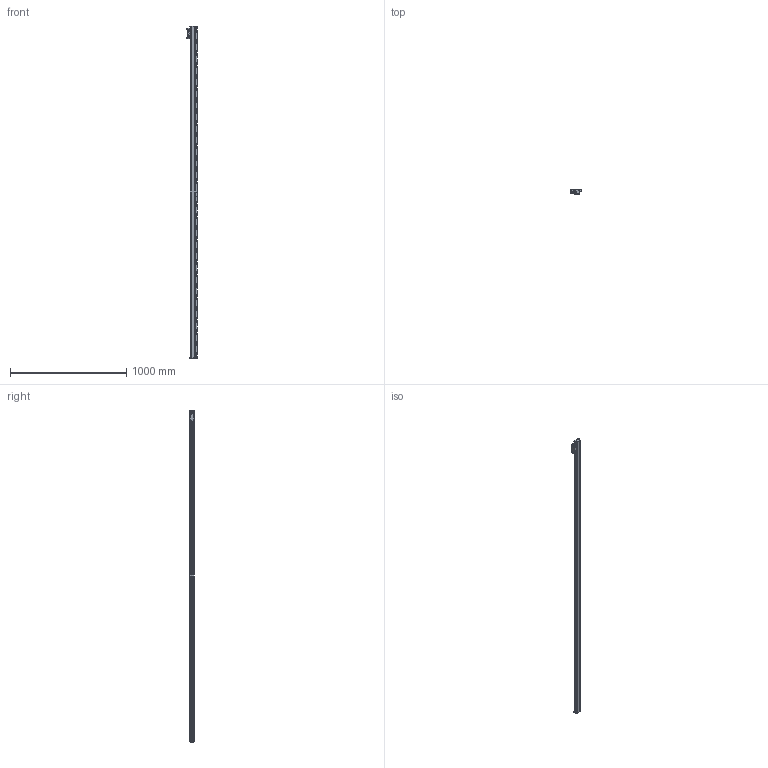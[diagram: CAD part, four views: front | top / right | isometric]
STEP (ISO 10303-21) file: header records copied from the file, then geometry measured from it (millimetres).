
FILE_DESCRIPTION(/* description */ (''),/* implementation_level */ '2;1');
FILE_NAME(/* name */ 'JC21A-2740-1.stp',/* time_stamp */ '2023-12-21T17:21:12+08:00',/* author */ (''),/* organization */ (''),/* preprocessor_version */ 'ST-DEVELOPER v14',/* originating_system */ 'SIEMENS PLM Software NX 8.0',/* authorisation */ '');
FILE_SCHEMA (('CONFIG_CONTROL_DESIGN'));
Length unit declared in the file: millimetre
Products named in the file (1): JC21A-2740-1
Bounding box: 87.5 x 37 x 2861 mm (x, y, z)
Volume: 4448350.5 mm3; surface area: 716409 mm2
Topology: 4 solids, 6 shells, 1497 faces, 4498 edges, 2997 vertices
Faces by surface type: plane 940, cylinder 525, cone 22, bspline 8, extrusion 2
Full cylindrical faces by diameter (mm): 2.5 x12, 3.3 x6, 3.7 x4, 4.2 x4, 5 x2, 6 x6, 6.6 x2, 6.8 x30, 7 x2, 13.2 x2
Entity records: 51753 total; most frequent: CARTESIAN_POINT 10543, ORIENTED_EDGE 8720, DIRECTION 8584, EDGE_CURVE 4360, VERTEX_POINT 2951, AXIS2_PLACEMENT_3D 2881, VECTOR 2822, LINE 2820
